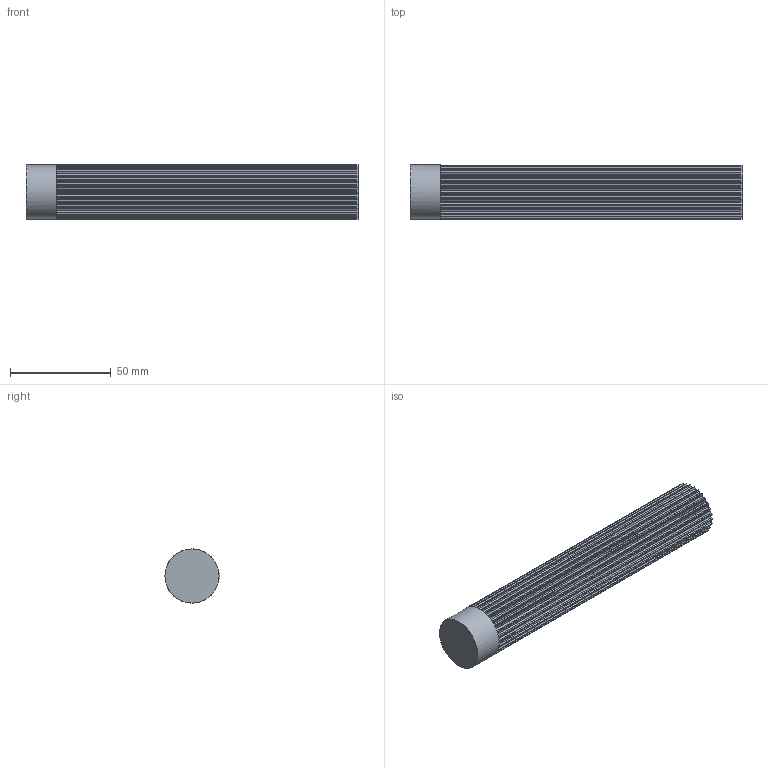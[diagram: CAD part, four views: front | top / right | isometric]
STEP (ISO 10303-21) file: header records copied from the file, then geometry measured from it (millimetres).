
FILE_DESCRIPTION( ( 'STEP AP214' ), '1' );
FILE_NAME( 'C:/Users/StangenbergN/Desktop/Steps Zahnriemenräder/K166_HTD-Zahnwellen/17092900.stp', '2019-06-06T09:34:27', ( '' ), ( '' ), ' ', 'PARTsolutions', ' ' );
FILE_SCHEMA( ( 'AUTOMOTIVE_DESIGN { 1 0 10303 214 1 1 1 1 }' ) );
Length unit declared in the file: millimetre
Products named in the file (1): _17092900
Bounding box: 165 x 26.93 x 26.93 mm (x, y, z)
Volume: 84766.3 mm3; surface area: 19681.7 mm2
Topology: 1 solids, 1 shells, 235 faces, 699 edges, 466 vertices
Faces by surface type: plane 118, cylinder 117
Full cylindrical faces by diameter (mm): 26.93 x1
Entity records: 9886 total; most frequent: DIRECTION 1460, CARTESIAN_POINT 1398, ORIENTED_EDGE 1394, EDGE_CURVE 697, AXIS2_PLACEMENT_3D 527, VERTEX_POINT 465, LINE 406, VECTOR 406
